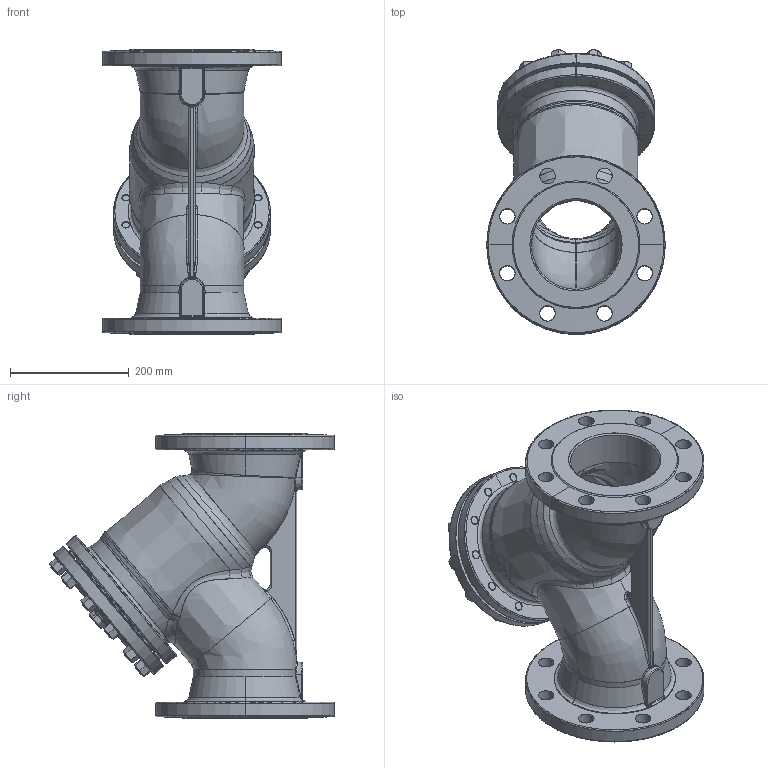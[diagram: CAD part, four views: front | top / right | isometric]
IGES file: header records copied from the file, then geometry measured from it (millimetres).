
Start section: SolidWorks IGES file using analytic representation for surfaces
Global section: file name: D:\Archiwum SolidWorks\staliwo\821\PN40\CAD\821_DN150 PN 40.IGS; native system: SolidWorks 2010; preprocessor: SolidWorks 2010; author: wtarnaws; date: 100113.085144; units: millimetre
Bounding box: 300 x 478.64 x 480 mm (x, y, z)
Surface area: 1157108.6 mm2 (no closed solid volume)
Topology: 0 solids, 0 shells, 995 faces, 16292 edges, 16283 vertices
Faces by surface type: revolution 576, bspline 419
